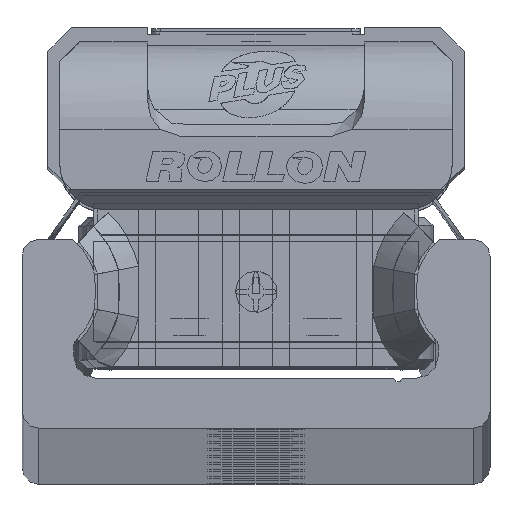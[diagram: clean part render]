
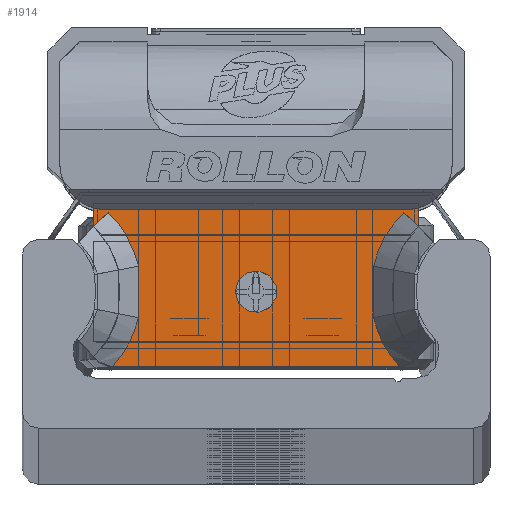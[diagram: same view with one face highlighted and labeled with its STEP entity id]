
A CAD part, top view. The second image highlights one B-rep face of the part: STEP entity #1914.
In plain terms, the highlighted planar face has unit normal (0, 0, 1) as drawn and (0, 0, -1) by its records, which use the part's own axes.
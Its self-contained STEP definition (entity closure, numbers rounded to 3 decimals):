
#1914 = ADVANCED_FACE( '', ( #4095, #4096 ), #4097, .F. );
#4095 = FACE_BOUND( '', #6488, .T. );
#4096 = FACE_OUTER_BOUND( '', #6489, .T. );
#4097 = PLANE( '', #6490 );
#6488 = EDGE_LOOP( '', ( #11675 ) );
#6489 = EDGE_LOOP( '', ( #11676, #11677, #11678, #11679, #11680, #11681, #11682, #11683, #11684, #11685, #11686, #11687, #11688, #11689 ) );
#6490 = AXIS2_PLACEMENT_3D( '', #11690, #11691, #11692 );
#11675 = ORIENTED_EDGE( '', *, *, #12831, .T. );
#11676 = ORIENTED_EDGE( '', *, *, #14327, .F. );
#11677 = ORIENTED_EDGE( '', *, *, #13729, .T. );
#11678 = ORIENTED_EDGE( '', *, *, #14474, .T. );
#11679 = ORIENTED_EDGE( '', *, *, #14165, .T. );
#11680 = ORIENTED_EDGE( '', *, *, #13826, .T. );
#11681 = ORIENTED_EDGE( '', *, *, #13736, .T. );
#11682 = ORIENTED_EDGE( '', *, *, #12787, .T. );
#11683 = ORIENTED_EDGE( '', *, *, #13118, .T. );
#11684 = ORIENTED_EDGE( '', *, *, #14787, .T. );
#11685 = ORIENTED_EDGE( '', *, *, #14217, .T. );
#11686 = ORIENTED_EDGE( '', *, *, #12897, .T. );
#11687 = ORIENTED_EDGE( '', *, *, #12763, .T. );
#11688 = ORIENTED_EDGE( '', *, *, #14606, .T. );
#11689 = ORIENTED_EDGE( '', *, *, #14233, .T. );
#11690 = CARTESIAN_POINT( '', ( 9.7, 4.89, -10.6 ) );
#11691 = DIRECTION( '', ( 0., 0., 1. ) );
#11692 = DIRECTION( '', ( 1., 0., 0. ) );
#12763 = EDGE_CURVE( '', #15044, #15042, #15045, .T. );
#12787 = EDGE_CURVE( '', #15086, #15087, #15088, .T. );
#12831 = EDGE_CURVE( '', #15163, #15163, #15164, .T. );
#12897 = EDGE_CURVE( '', #14994, #15044, #15280, .T. );
#13118 = EDGE_CURVE( '', #15087, #15665, #15667, .T. );
#13729 = EDGE_CURVE( '', #16675, #16673, #16676, .T. );
#13736 = EDGE_CURVE( '', #15315, #15086, #16685, .T. );
#13826 = EDGE_CURVE( '', #16821, #15315, #16822, .T. );
#14165 = EDGE_CURVE( '', #17306, #16821, #17309, .T. );
#14217 = EDGE_CURVE( '', #15240, #14994, #17386, .T. );
#14233 = EDGE_CURVE( '', #17413, #17411, #17414, .T. );
#14327 = EDGE_CURVE( '', #16675, #17411, #17560, .T. );
#14474 = EDGE_CURVE( '', #16673, #17306, #17752, .T. );
#14606 = EDGE_CURVE( '', #15042, #17413, #17911, .T. );
#14787 = EDGE_CURVE( '', #15665, #15240, #18120, .T. );
#14994 = VERTEX_POINT( '', #18357 );
#15042 = VERTEX_POINT( '', #18421 );
#15044 = VERTEX_POINT( '', #18424 );
#15045 = B_SPLINE_CURVE_WITH_KNOTS( '', 2, ( #18425, #18426, #18427 ), .UNSPECIFIED., .F., .F., ( 3, 3 ), ( 0., 1. ), .UNSPECIFIED. );
#15086 = VERTEX_POINT( '', #18484 );
#15087 = VERTEX_POINT( '', #18485 );
#15088 = B_SPLINE_CURVE_WITH_KNOTS( '', 2, ( #18486, #18487, #18488, #18489, #18490 ), .UNSPECIFIED., .F., .F., ( 3, 2, 3 ), ( 0., 0.5, 1. ), .UNSPECIFIED. );
#15163 = VERTEX_POINT( '', #18587 );
#15164 = CIRCLE( '', #18588, 1.25 );
#15240 = VERTEX_POINT( '', #18698 );
#15280 = B_SPLINE_CURVE_WITH_KNOTS( '', 2, ( #18747, #18748, #18749 ), .UNSPECIFIED., .F., .F., ( 3, 3 ), ( 0.1, 1. ), .UNSPECIFIED. );
#15315 = VERTEX_POINT( '', #18789 );
#15665 = VERTEX_POINT( '', #19300 );
#15667 = B_SPLINE_CURVE_WITH_KNOTS( '', 2, ( #19303, #19304, #19305 ), .UNSPECIFIED., .F., .F., ( 3, 3 ), ( 0., 1. ), .UNSPECIFIED. );
#16673 = VERTEX_POINT( '', #20682 );
#16675 = VERTEX_POINT( '', #20685 );
#16676 = CIRCLE( '', #20686, 2.8 );
#16685 = LINE( '', #20697, #20698 );
#16821 = VERTEX_POINT( '', #20929 );
#16822 = LINE( '', #20930, #20931 );
#17306 = VERTEX_POINT( '', #21598 );
#17309 = CIRCLE( '', #21602, 2.8 );
#17386 = LINE( '', #21706, #21707 );
#17411 = VERTEX_POINT( '', #21737 );
#17413 = VERTEX_POINT( '', #21740 );
#17414 = LINE( '', #21741, #21742 );
#17560 = LINE( '', #21999, #22000 );
#17752 = LINE( '', #22304, #22305 );
#17911 = B_SPLINE_CURVE_WITH_KNOTS( '', 2, ( #22534, #22535, #22536 ), .UNSPECIFIED., .F., .F., ( 3, 3 ), ( 0., 1. ), .UNSPECIFIED. );
#18120 = B_SPLINE_CURVE_WITH_KNOTS( '', 2, ( #22815, #22816, #22817 ), .UNSPECIFIED., .F., .F., ( 3, 3 ), ( 0., 1. ), .UNSPECIFIED. );
#18357 = CARTESIAN_POINT( '', ( -8.59, -4.893, -10.6 ) );
#18421 = CARTESIAN_POINT( '', ( -7.031, 1.144, -10.6 ) );
#18424 = CARTESIAN_POINT( '', ( -7.031, -1.944, -10.6 ) );
#18425 = CARTESIAN_POINT( '', ( -7.031, -1.944, -10.6 ) );
#18426 = CARTESIAN_POINT( '', ( -6.929, -0.4, -10.6 ) );
#18427 = CARTESIAN_POINT( '', ( -7.031, 1.144, -10.6 ) );
#18484 = CARTESIAN_POINT( '', ( 8.853, 4.366, -10.6 ) );
#18485 = CARTESIAN_POINT( '', ( 7.031, 1.144, -10.6 ) );
#18486 = CARTESIAN_POINT( '', ( 8.853, 4.366, -10.6 ) );
#18487 = CARTESIAN_POINT( '', ( 8.182, 3.708, -10.6 ) );
#18488 = CARTESIAN_POINT( '', ( 7.715, 2.883, -10.6 ) );
#18489 = CARTESIAN_POINT( '', ( 7.249, 2.058, -10.6 ) );
#18490 = CARTESIAN_POINT( '', ( 7.031, 1.144, -10.6 ) );
#18587 = CARTESIAN_POINT( '', ( 1.25, -0.39, -10.6 ) );
#18588 = AXIS2_PLACEMENT_3D( '', #23185, #23186, #23187 );
#18698 = CARTESIAN_POINT( '', ( 8.59, -4.893, -10.6 ) );
#18747 = CARTESIAN_POINT( '', ( -8.587, -4.89, -10.6 ) );
#18748 = CARTESIAN_POINT( '', ( -7.432, -3.63, -10.6 ) );
#18749 = CARTESIAN_POINT( '', ( -7.031, -1.944, -10.6 ) );
#18789 = CARTESIAN_POINT( '', ( 9.7, 3.497, -10.6 ) );
#19300 = CARTESIAN_POINT( '', ( 7.031, -1.944, -10.6 ) );
#19303 = CARTESIAN_POINT( '', ( 7.031, 1.144, -10.6 ) );
#19304 = CARTESIAN_POINT( '', ( 6.929, -0.4, -10.6 ) );
#19305 = CARTESIAN_POINT( '', ( 7.031, -1.944, -10.6 ) );
#20682 = CARTESIAN_POINT( '', ( -8.95, 4.51, -10.6 ) );
#20685 = CARTESIAN_POINT( '', ( -9.7, 4.612, -10.6 ) );
#20686 = AXIS2_PLACEMENT_3D( '', #24453, #24454, #24455 );
#20697 = CARTESIAN_POINT( '', ( 9.7, 3.501, -10.6 ) );
#20698 = VECTOR( '', #24464, 1000. );
#20929 = CARTESIAN_POINT( '', ( 9.7, 4.612, -10.6 ) );
#20930 = CARTESIAN_POINT( '', ( 9.7, 4.89, -10.6 ) );
#20931 = VECTOR( '', #24588, 1000. );
#21598 = CARTESIAN_POINT( '', ( 8.95, 4.51, -10.6 ) );
#21602 = AXIS2_PLACEMENT_3D( '', #25036, #25037, #25038 );
#21706 = CARTESIAN_POINT( '', ( 9.7, -4.89, -10.6 ) );
#21707 = VECTOR( '', #25102, 1000. );
#21737 = CARTESIAN_POINT( '', ( -9.7, 3.494, -10.6 ) );
#21740 = CARTESIAN_POINT( '', ( -8.853, 4.366, -10.6 ) );
#21741 = CARTESIAN_POINT( '', ( -8.853, 4.366, -10.6 ) );
#21742 = VECTOR( '', #25129, 1000. );
#21999 = CARTESIAN_POINT( '', ( -9.7, 4.89, -10.6 ) );
#22000 = VECTOR( '', #25308, 1000. );
#22304 = CARTESIAN_POINT( '', ( 9.7, 4.51, -10.6 ) );
#22305 = VECTOR( '', #25435, 1000. );
#22534 = CARTESIAN_POINT( '', ( -7.031, 1.144, -10.6 ) );
#22535 = CARTESIAN_POINT( '', ( -7.477, 3.018, -10.6 ) );
#22536 = CARTESIAN_POINT( '', ( -8.853, 4.366, -10.6 ) );
#22815 = CARTESIAN_POINT( '', ( 7.031, -1.944, -10.6 ) );
#22816 = CARTESIAN_POINT( '', ( 7.429, -3.615, -10.6 ) );
#22817 = CARTESIAN_POINT( '', ( 8.588, -4.89, -10.6 ) );
#23185 = CARTESIAN_POINT( '', ( 0., -0.39, -10.6 ) );
#23186 = DIRECTION( '', ( 0., 0., 1. ) );
#23187 = DIRECTION( '', ( 1., 0., 0. ) );
#24453 = CARTESIAN_POINT( '', ( -8.95, 7.31, -10.6 ) );
#24454 = DIRECTION( '', ( 0., 0., 1. ) );
#24455 = DIRECTION( '', ( 1., 0., 0. ) );
#24464 = DIRECTION( '', ( -0.7, 0.714, 0. ) );
#24588 = DIRECTION( '', ( 0., -1., 0. ) );
#25036 = CARTESIAN_POINT( '', ( 8.95, 7.31, -10.6 ) );
#25037 = DIRECTION( '', ( 0., 0., 1. ) );
#25038 = DIRECTION( '', ( 1., 0., 0. ) );
#25102 = DIRECTION( '', ( -1., 0., 0. ) );
#25129 = DIRECTION( '', ( -0.7, -0.714, 0. ) );
#25308 = DIRECTION( '', ( 0., -1., 0. ) );
#25435 = DIRECTION( '', ( 1., 0., 0. ) );
